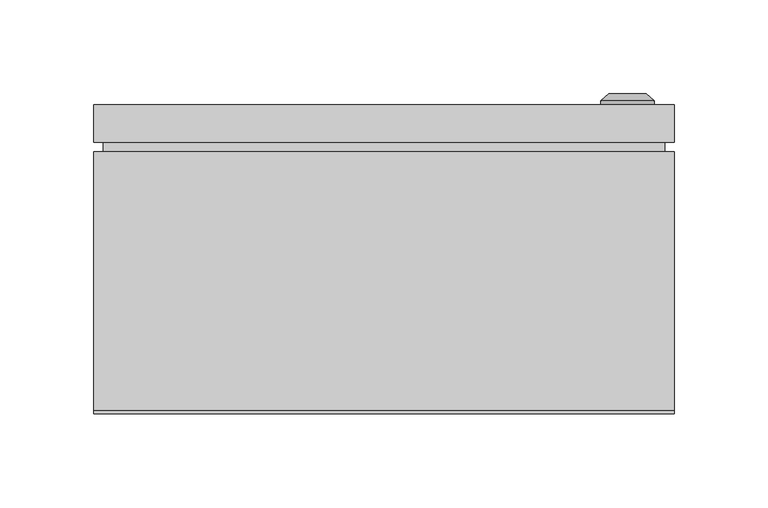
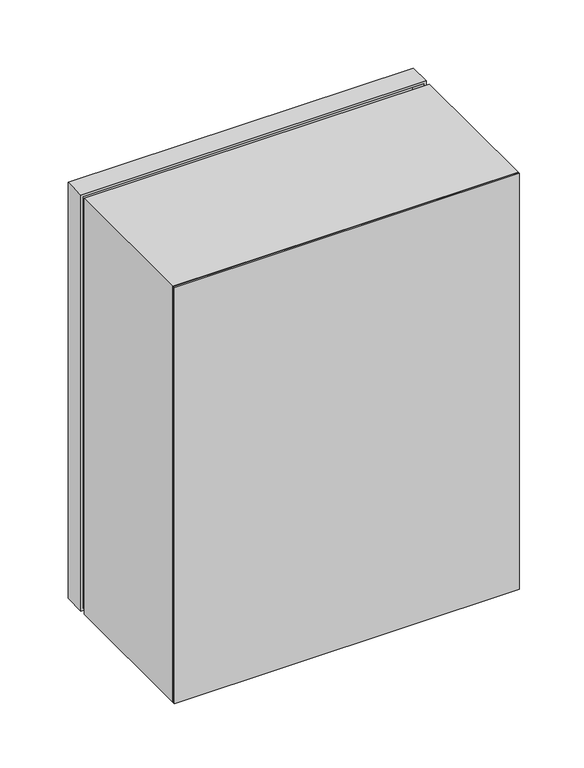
"""IFC4 building model written with IfcOpenShell, lengths in millimetres: proxy geometry, ЩУ-1ф_1-0-12_IP66 : ЩУ-1ф/1-0-12_IP66."""

import ifcopenshell
import ifcopenshell.guid

model = None  # the IFC model being written
_history = None  # IfcOwnerHistory: only IFC2X3 demands one
_inside = {}  # id of a spatial element -> (the spatial element, [elements in it])
_under = {}  # id of a project, library or spatial element -> (it, [spatial elements below it])
_declared = {}  # id of a project -> (the project, [libraries it declares])
_typed = {}  # id of a type object -> (the type object, [elements of that type])
_made_of = {}  # id of a material, layer set ... -> (it, [elements and type objects made of it])


def new_model(schema):
    """Start an empty IFC model of exactly this schema.

    Asked for "IFC4X3", IfcOpenShell would pick the latest addendum, in which some entities
    have other attributes; the version numbers below select the first issue.
    IFC2X3 requires an IfcOwnerHistory on every rooted entity: one is made here for all.
    """
    global model, _history
    if schema == "IFC4X3":
        model = ifcopenshell.file(schema_version=(4, 3, 0, 0))
    else:
        model = ifcopenshell.file(schema=schema)
    _inside.clear()
    _under.clear()
    _declared.clear()
    _typed.clear()
    _made_of.clear()
    _history = None
    if model.schema == "IFC2X3":
        org = make("IfcOrganization", Name="unknown")
        user = make(
            "IfcPersonAndOrganization",
            ThePerson=make("IfcPerson", FamilyName="unknown"),
            TheOrganization=org,
        )
        app = make(
            "IfcApplication",
            ApplicationDeveloper=org,
            Version="unknown",
            ApplicationFullName="unknown",
            ApplicationIdentifier="unknown",
        )
        _history = make(
            "IfcOwnerHistory",
            OwningUser=user,
            OwningApplication=app,
            ChangeAction="ADDED",
            CreationDate=0,
        )
    return model


def make(cls, **values):
    """One entity of the class cls with the attributes given. An attribute that is None is left unset."""
    return model.create_entity(
        cls, **{name: value for name, value in values.items() if value is not None}
    )


def rooted(cls, **values):
    """An entity with a GlobalId (a new one), such as an element, a storey or a relation."""
    return make(cls, GlobalId=ifcopenshell.guid.new(), OwnerHistory=_history, **values)


def si_unit(unit_type, name, prefix=None):
    """IfcSIUnit, for example si_unit("LENGTHUNIT", "METRE", prefix="MILLI")."""
    return make("IfcSIUnit", UnitType=unit_type, Prefix=prefix, Name=name)


def assignment(units):
    """IfcUnitAssignment: the units of a project."""
    return None if units is None else make("IfcUnitAssignment", Units=units)


def point(xyz):
    """IfcCartesianPoint."""
    return None if xyz is None else make("IfcCartesianPoint", Coordinates=xyz)


def direction(xyz):
    """IfcDirection."""
    return None if xyz is None else make("IfcDirection", DirectionRatios=xyz)


def frame(location, z_axis=None, x_axis=None):
    """IfcAxis2Placement3D, a coordinate frame: its origin and axes. An axis left out is left unset."""
    return make(
        "IfcAxis2Placement3D",
        Location=point(location),
        Axis=direction(z_axis),
        RefDirection=direction(x_axis),
    )


def frame_2d(location, x_axis=None):
    """IfcAxis2Placement2D, a coordinate frame in the plane: its origin and x axis."""
    return make(
        "IfcAxis2Placement2D", Location=point(location), RefDirection=direction(x_axis)
    )


def origin():
    """The frame at (0, 0, 0) with its axes left unset."""
    return frame((0.0, 0.0, 0.0))


def origin_with_axes():
    """The frame at (0, 0, 0) with the z axis (0, 0, 1) and the x axis (1, 0, 0) written out."""
    return frame((0.0, 0.0, 0.0), z_axis=(0.0, 0.0, 1.0), x_axis=(1.0, 0.0, 0.0))


def place(relative_to, where):
    """IfcLocalPlacement: puts the frame where relative to a parent placement (None: the world)."""
    return make(
        "IfcLocalPlacement", PlacementRelTo=relative_to, RelativePlacement=where
    )


def context(
    kind, dimensions, precision=None, world=None, true_north=None, identifier=None
):
    """IfcGeometricRepresentationContext, for example the 3D "Model" context."""
    return make(
        "IfcGeometricRepresentationContext",
        ContextIdentifier=identifier,
        ContextType=kind,
        CoordinateSpaceDimension=dimensions,
        Precision=precision,
        WorldCoordinateSystem=world,
        TrueNorth=true_north,
    )


def project(units=None, contexts=None):
    """IfcProject with its units and contexts."""
    return rooted(
        "IfcProject",
        Name="project",
        RepresentationContexts=contexts,
        UnitsInContext=assignment(units),
    )


def spatial(cls, under=None, at=None, **own):
    """A site, building, storey or space (cls), placed at a placement, below another one or the project."""
    s = rooted(cls, ObjectPlacement=at, **own)
    if under is not None:
        _under.setdefault(under.id(), (under, []))[1].append(s)
    return s


def polyline(points):
    """IfcPolyline through the points."""
    return make("IfcPolyline", Points=[point(p) for p in points])


def circle_curve(where, radius):
    """IfcCircle in the frame where."""
    return make("IfcCircle", Position=where, Radius=radius)


def trimmed(basis, trim1, trim2, sense, master):
    """IfcTrimmedCurve: the piece of a basis curve between two trims."""
    return make(
        "IfcTrimmedCurve",
        BasisCurve=basis,
        Trim1=trim1,
        Trim2=trim2,
        SenseAgreement=sense,
        MasterRepresentation=master,
    )


def segment(curve, same_sense, transition):
    """IfcCompositeCurveSegment."""
    return make(
        "IfcCompositeCurveSegment",
        Transition=transition,
        SameSense=same_sense,
        ParentCurve=curve,
    )


def composite_curve(segments, self_intersect=None):
    """IfcCompositeCurve: segments joined end to end."""
    return make("IfcCompositeCurve", Segments=segments, SelfIntersect=self_intersect)


def outline(outer, holes=None, kind="AREA"):
    """IfcArbitraryClosedProfileDef: a profile drawn as a closed curve; with holes, ...WithVoids."""
    if holes is None:
        return make("IfcArbitraryClosedProfileDef", ProfileType=kind, OuterCurve=outer)
    return make(
        "IfcArbitraryProfileDefWithVoids",
        ProfileType=kind,
        OuterCurve=outer,
        InnerCurves=holes,
    )


def extrude(swept, where, along, depth):
    """IfcExtrudedAreaSolid: the profile swept, set in the frame where, extruded along a direction by depth."""
    return make(
        "IfcExtrudedAreaSolid",
        SweptArea=swept,
        Position=where,
        ExtrudedDirection=direction(along),
        Depth=depth,
    )


def shape(context_of_items, identifier, shape_type, items):
    """IfcShapeRepresentation: the items that make up one representation, for example the "Body"."""
    return make(
        "IfcShapeRepresentation",
        ContextOfItems=context_of_items,
        RepresentationIdentifier=identifier,
        RepresentationType=shape_type,
        Items=items,
    )


def source(mapping_origin, context_of_items, identifier, shape_type, items):
    """IfcRepresentationMap: a shape defined once, which mapped items show again and again."""
    return make(
        "IfcRepresentationMap",
        MappingOrigin=mapping_origin,
        MappedRepresentation=shape(context_of_items, identifier, shape_type, items),
    )


def transform(
    local_origin,
    x_axis=None,
    y_axis=None,
    z_axis=None,
    scale=None,
    scale2=None,
    scale3=None,
    uniform=True,
):
    """IfcCartesianTransformationOperator3D, or its non-uniform kind. x_axis, y_axis, z_axis: its Axis1, 2, 3."""
    if uniform:
        return make(
            "IfcCartesianTransformationOperator3D",
            Axis1=direction(x_axis),
            Axis2=direction(y_axis),
            LocalOrigin=point(local_origin),
            Scale=scale,
            Axis3=direction(z_axis),
        )
    return make(
        "IfcCartesianTransformationOperator3DnonUniform",
        Axis1=direction(x_axis),
        Axis2=direction(y_axis),
        LocalOrigin=point(local_origin),
        Scale=scale,
        Axis3=direction(z_axis),
        Scale2=scale2,
        Scale3=scale3,
    )


def mapped(mapping_source, mapping_target):
    """IfcMappedItem: shows the shape of a source again, moved by a transform."""
    return make(
        "IfcMappedItem", MappingSource=mapping_source, MappingTarget=mapping_target
    )


def made_of(thing, what):
    """Note that an element or type object is made of a material, layer set ...; save() writes the relation."""
    if what is not None:
        _made_of.setdefault(what.id(), (what, []))[1].append(thing)
    return thing


def element(
    cls,
    number,
    at=None,
    inside=None,
    cuts=None,
    type_object=None,
    material=None,
    context=None,
    identifier="Body",
    shape_type=None,
    held_by="IfcProductDefinitionShape",
    body=None,
    shapes=None,
    **own,
):
    """One element of the class cls, such as IfcWall. Its Tag is "e" and its number.

    at: its placement. inside: the storey or other place that contains it. cuts: it is an
    opening in that element (IfcRelVoidsElement). A single representation is given by context,
    identifier, shape_type and body (its items); several are given by shapes. held_by: the class
    of the entity that holds the representations. save() writes the other relations.
    """
    e = rooted(cls, Tag="e%d" % number, ObjectPlacement=at, **own)
    if body is not None:
        shapes = [shape(context, identifier, shape_type, body)]
    if shapes is not None:
        e.Representation = make(held_by, Representations=shapes)
    if inside is not None:
        _inside.setdefault(inside.id(), (inside, []))[1].append(e)
    if cuts is not None:
        rooted(
            "IfcRelVoidsElement", RelatingBuildingElement=cuts, RelatedOpeningElement=e
        )
    if type_object is not None:
        _typed.setdefault(type_object.id(), (type_object, []))[1].append(e)
    return made_of(e, material)


def aggregate(whole, parts):
    """IfcRelAggregates: a whole, such as a stair, and the parts it consists of."""
    return rooted("IfcRelAggregates", RelatingObject=whole, RelatedObjects=parts)


def save(model, path):
    """Write the relations noted so far, then the file.

    IfcRelAggregates (storeys below a building ...), IfcRelContainedInSpatialStructure (elements
    in a storey), IfcRelDefinesByType, IfcRelAssociatesMaterial and IfcRelDeclares: one each for
    every whole, place, type object, material and project.
    """
    for whole, parts in _under.values():
        aggregate(whole, parts)
    for where, things in _inside.values():
        rooted(
            "IfcRelContainedInSpatialStructure",
            RelatedElements=things,
            RelatingStructure=where,
        )
    for kind, things in _typed.values():
        rooted("IfcRelDefinesByType", RelatedObjects=things, RelatingType=kind)
    for what, things in _made_of.values():
        rooted("IfcRelAssociatesMaterial", RelatedObjects=things, RelatingMaterial=what)
    for by, libraries in _declared.values():
        rooted("IfcRelDeclares", RelatingContext=by, RelatedDefinitions=libraries)
    model.write(path)


def plane_surface(at):
    """IfcPlane: the flat surface through the origin of the frame at, square to its z axis."""
    return make("IfcPlane", Position=at)


def cylinder_surface(at, radius):
    """IfcCylindricalSurface: all points at the distance radius from the z axis of the frame at."""
    return make("IfcCylindricalSurface", Position=at, Radius=radius)


def revolved_surface(curve, axis_point, axis_direction):
    """IfcSurfaceOfRevolution: the curve turned about the line through axis_point along axis_direction."""
    return make(
        "IfcSurfaceOfRevolution",
        SweptCurve=make("IfcArbitraryOpenProfileDef", ProfileType="CURVE", Curve=curve),
        AxisPosition=make("IfcAxis1Placement", Location=point(axis_point), Axis=direction(axis_direction)),
    )


def advanced_brep(points, edges, surfaces, faces):
    """IfcAdvancedBrep: a solid bounded by faces that lie on surfaces and meet in shared edges.

    An edge is (start, end): straight between two places in points (the first is 0);
    or (start, end, curve); or (start, end, curve, False) where it runs against its curve.
    A face is (place in surfaces, loops), or (place, loops, False) where it looks against
    its surface's normal. A loop lists edges by number (the first is 1), with a minus sign
    where the edge is run from its end to its start. The first loop is the outer one.
    """
    corners = [point(p) for p in points]
    vertices = [make("IfcVertexPoint", VertexGeometry=c) for c in corners]
    made = []
    for start, end, *more in edges:
        made.append(
            make(
                "IfcEdgeCurve",
                EdgeStart=vertices[start],
                EdgeEnd=vertices[end],
                EdgeGeometry=more[0] if more else make("IfcPolyline", Points=[corners[start], corners[end]]),
                SameSense=more[1] if len(more) > 1 else True,
            )
        )
    hull = []
    for where, loops, *sense in faces:
        bounds = []
        for j, loop in enumerate(loops):
            ring = [make("IfcOrientedEdge", EdgeElement=made[abs(k) - 1], Orientation=k > 0) for k in loop]
            bounds.append(
                make(
                    "IfcFaceOuterBound" if j == 0 else "IfcFaceBound",
                    Bound=make("IfcEdgeLoop", EdgeList=ring),
                    Orientation=True,
                )
            )
        hull.append(make("IfcAdvancedFace", Bounds=bounds, FaceSurface=surfaces[where], SameSense=sense[0] if sense else True))
    return make("IfcAdvancedBrep", Outer=make("IfcClosedShell", CfsFaces=hull))


def electrical_equipment_bb3ff358(model_context):
    return source(origin(), model_context, "Body", "SolidModel", [
        extrude(outline(composite_curve([segment(trimmed(circle_curve(frame_2d((222.5, 47.5)), 5.0), [point((217.5, 47.5))], [point((222.5, 52.5))], False, "CARTESIAN"), True, "CONTINUOUS"), segment(polyline([(222.5, 52.5), (282.5, 52.5)]), True, "CONTINUOUS"), segment(trimmed(circle_curve(frame_2d((282.5, 47.5)), 5.0), [point((282.5, 52.5))], [point((287.5, 47.5))], False, "CARTESIAN"), True, "CONTINUOUS"), segment(polyline([(287.5, 47.5), (287.5, -52.5)]), True, "CONTINUOUS"), segment(trimmed(circle_curve(frame_2d((282.5, -52.5)), 5.0), [point((287.5, -52.5))], [point((282.5, -57.5))], False, "CARTESIAN"), True, "CONTINUOUS"), segment(polyline([(282.5, -57.5), (222.5, -57.5)]), True, "CONTINUOUS"), segment(trimmed(circle_curve(frame_2d((222.5, -52.5)), 5.0), [point((222.5, -57.5))], [point((217.5, -52.5))], False, "CARTESIAN"), True, "CONTINUOUS"), segment(polyline([(217.5, -52.5), (217.5, 47.5)]), True, "CONTINUOUS")], self_intersect=False)), frame((0.0, 163.0, 0.0), z_axis=(0.0, 1.0, 0.0), x_axis=(0.0, 0.0, 1.0)), (0.0, 0.0, 1.0), 2.0),
        advanced_brep(
        [(-155.0, 145.0, 395.0), (-155.0, 145.0, 0.0), (155.0, 145.0, 0.0), (155.0, 145.0, 395.0), (-153.0033905, 145.0, 2.0), (-153.0033905, 145.0, 393.0), (152.9966095, 145.0, 393.0), (152.9966095, 145.0, 2.0), (-155.0, 165.0, 395.0), (155.0, 165.0, 395.0), (155.0, 165.0, 0.0), (-155.0, 165.0, 0.0), (-52.5, 165.0, 287.5), (-57.5, 165.0, 282.5), (-57.5, 165.0, 222.5), (-52.5, 165.0, 217.5), (47.5, 165.0, 217.5), (52.5, 165.0, 222.5), (52.5, 165.0, 282.5), (47.5, 165.0, 287.5), (-153.0033905, 163.0, 393.0), (-153.0033905, 163.0, 2.0), (152.9966095, 163.0, 2.0), (152.9966095, 163.0, 393.0), (-52.5, 163.0, 287.5), (47.5, 163.0, 287.5), (52.5, 163.0, 282.5), (52.5, 163.0, 222.5), (47.5, 163.0, 217.5), (-52.5, 163.0, 217.5), (-57.5, 163.0, 222.5), (-57.5, 163.0, 282.5)],
        [
            (0, 1),
            (1, 2),
            (2, 3),
            (3, 0),
            (4, 5),
            (5, 6),
            (6, 7),
            (7, 4),
            (8, 9),
            (9, 10),
            (10, 11),
            (11, 8),
            (12, 13, circle_curve(frame((-52.5, 165.0, 282.5), z_axis=(0.0, -1.0, 0.0), x_axis=(1.0, 0.0, 0.0)), 5.0)),
            (13, 14),
            (14, 15, circle_curve(frame((-52.5, 165.0, 222.5), z_axis=(0.0, -1.0, 0.0), x_axis=(1.0, 0.0, 0.0)), 5.0)),
            (15, 16),
            (16, 17, circle_curve(frame((47.5, 165.0, 222.5), z_axis=(0.0, -1.0, 0.0), x_axis=(1.0, 0.0, 0.0)), 5.0)),
            (17, 18),
            (18, 19, circle_curve(frame((47.5, 165.0, 282.5), z_axis=(0.0, -1.0, 0.0), x_axis=(1.0, 0.0, 0.0)), 5.0)),
            (19, 12),
            (0, 8),
            (11, 1),
            (10, 2),
            (9, 3),
            (20, 21),
            (21, 22),
            (22, 23),
            (23, 20),
            (24, 25),
            (25, 26, circle_curve(frame((47.5, 163.0, 282.5), z_axis=(0.0, 1.0, 0.0), x_axis=(1.0, 0.0, 0.0)), 5.0)),
            (26, 27),
            (27, 28, circle_curve(frame((47.5, 163.0, 222.5), z_axis=(0.0, 1.0, 0.0), x_axis=(1.0, 0.0, 0.0)), 5.0)),
            (28, 29),
            (29, 30, circle_curve(frame((-52.5, 163.0, 222.5), z_axis=(0.0, 1.0, 0.0), x_axis=(1.0, 0.0, 0.0)), 5.0)),
            (30, 31),
            (31, 24, circle_curve(frame((-52.5, 163.0, 282.5), z_axis=(0.0, 1.0, 0.0), x_axis=(1.0, 0.0, 0.0)), 5.0)),
            (20, 5),
            (4, 21),
            (7, 22),
            (6, 23),
            (19, 25),
            (24, 12),
            (17, 27),
            (26, 18),
            (15, 29),
            (28, 16),
            (13, 31),
            (30, 14),
        ],
        [
            plane_surface(frame((-155.0, 145.0, 395.0), z_axis=(0.0, -1.0, 0.0), x_axis=(0.0, 0.0, -1.0))),
            plane_surface(frame((-155.0, 165.0, 395.0), z_axis=(0.0, 1.0, 0.0), x_axis=(0.0, 0.0, 1.0))),
            plane_surface(frame((-155.0, 145.0, 395.0), z_axis=(-1.0, 0.0, 0.0), x_axis=(0.0, 1.0, 0.0))),
            plane_surface(frame((-155.0, 145.0, 0.0), z_axis=(0.0, 0.0, -1.0), x_axis=(0.0, 1.0, 0.0))),
            plane_surface(frame((155.0, 145.0, 0.0), z_axis=(1.0, 0.0, 0.0), x_axis=(0.0, 1.0, 0.0))),
            plane_surface(frame((155.0, 145.0, 395.0), z_axis=(0.0, 0.0, 1.0), x_axis=(0.0, 1.0, 0.0))),
            plane_surface(frame((-153.0033905, 163.0, 393.0), z_axis=(0.0, -1.0, 0.0), x_axis=(0.0, 0.0, 1.0))),
            plane_surface(frame((-153.0033905, 145.0, 393.0), z_axis=(1.0, 0.0, 0.0), x_axis=(0.0, 1.0, 0.0))),
            plane_surface(frame((-153.0033905, 145.0, 2.0), z_axis=(0.0, 0.0, 1.0), x_axis=(0.0, 1.0, 0.0))),
            plane_surface(frame((152.9966095, 145.0, 2.0), z_axis=(-1.0, 0.0, 0.0), x_axis=(0.0, 1.0, 0.0))),
            plane_surface(frame((152.9966095, 145.0, 393.0), z_axis=(0.0, 0.0, -1.0), x_axis=(0.0, 1.0, 0.0))),
            plane_surface(frame((-52.5, 145.0, 287.5), z_axis=(0.0, 0.0, -1.0), x_axis=(0.0, 1.0, 0.0))),
            plane_surface(frame((52.5, 145.0, 282.5), z_axis=(-1.0, 0.0, 0.0), x_axis=(0.0, 1.0, 0.0))),
            plane_surface(frame((47.5, 145.0, 217.5), z_axis=(0.0, 0.0, 1.0), x_axis=(0.0, 1.0, 0.0))),
            plane_surface(frame((-57.5, 145.0, 222.5), z_axis=(1.0, 0.0, 0.0), x_axis=(0.0, 1.0, 0.0))),
            revolved_surface(polyline([(52.5, 165.0, 282.5), (52.5, 163.0, 282.5)]), (47.5, 0.0, 282.5), (0.0, 1.0, 0.0)),
            revolved_surface(polyline([(52.5, 165.0, 222.5), (52.5, 163.0, 222.5)]), (47.5, 0.0, 222.5), (0.0, 1.0, 0.0)),
            revolved_surface(polyline([(-47.5, 165.0, 222.5), (-47.5, 163.0, 222.5)]), (-52.5, 0.0, 222.5), (0.0, 1.0, 0.0)),
            revolved_surface(polyline([(-47.5, 165.0, 282.5), (-47.5, 163.0, 282.5)]), (-52.5, 0.0, 282.5), (0.0, 1.0, 0.0)),
        ],
        [
            (0, [[1, 2, 3, 4], [5, 6, 7, 8]]),
            (1, [[9, 10, 11, 12], [13, 14, 15, 16, 17, 18, 19, 20]]),
            (2, [[-1, 21, -12, 22]]),
            (3, [[-2, -22, -11, 23]]),
            (4, [[-3, -23, -10, 24]]),
            (5, [[-4, -24, -9, -21]]),
            (6, [[25, 26, 27, 28], [29, 30, 31, 32, 33, 34, 35, 36]]),
            (7, [[-25, 37, -5, 38]]),
            (8, [[-26, -38, -8, 39]]),
            (9, [[-27, -39, -7, 40]]),
            (10, [[-28, -40, -6, -37]]),
            (11, [[-20, 41, -29, 42]]),
            (12, [[-18, 43, -31, 44]]),
            (13, [[-16, 45, -33, 46]]),
            (14, [[-14, 47, -35, 48]]),
            (15, [[-19, -44, -30, -41]]),
            (16, [[-17, -46, -32, -43]]),
            (17, [[-15, -48, -34, -45]]),
            (18, [[-13, -42, -36, -47]]),
        ],
    ),
        extrude(outline(polyline([(395.0, -155.0033905), (0.0, -155.0033905), (0.0, 154.9966095), (395.0, 154.9966095), (395.0, -155.0033905)]), holes=[polyline([(370.0, -125.0033905), (370.0, 129.9966095), (25.0, 129.9966095), (25.0, -125.0033905), (370.0, -125.0033905)])]), frame((0.0, 2.0, 0.0), z_axis=(0.0, 1.0, 0.0), x_axis=(0.0, 0.0, 1.0)), (0.0, 0.0, 1.0), 138.0),
        extrude(outline(polyline([(155.0, 0.0), (-155.0, 0.0), (-155.0, 2.0), (155.0, 2.0), (155.0, 0.0)])), origin_with_axes(), (0.0, 0.0, 1.0), 395.0),
        extrude(outline(polyline([(150.0, 140.0), (-150.0, 140.0), (-150.0, 145.0), (150.0, 145.0), (150.0, 140.0)])), frame((0.0, 0.0, 5.0), z_axis=(0.0, 0.0, 1.0), x_axis=(1.0, 0.0, 0.0)), (0.0, 0.0, 1.0), 385.0),
        advanced_brep(
        [(115.669873, 165.0, 197.5), (144.330127, 165.0, 197.5), (130.0, 165.0, 197.5), (115.669873, 167.366592, 197.5), (144.330127, 167.366592, 197.5), (120.0, 171.0, 197.5), (140.0, 171.0, 197.5), (128.1080471, 171.0, 197.5), (131.8919529, 171.0, 197.5), (128.1080471, 169.9822294, 197.5), (131.8919529, 169.9822294, 197.5), (130.0, 169.9822294, 197.5)],
        [
            (0, 1, circle_curve(frame((130.0, 165.0, 197.5), z_axis=(0.0, -1.0, 0.0), x_axis=(1.0, 0.0, 0.0)), 14.330127)),
            (1, 2),
            (2, 0),
            (1, 0, circle_curve(frame((130.0, 165.0, 197.5), z_axis=(0.0, -1.0, 0.0), x_axis=(1.0, 0.0, 0.0)), 14.330127)),
            (3, 4, circle_curve(frame((130.0, 167.366592, 197.5), z_axis=(0.0, -1.0, 0.0), x_axis=(1.0, 0.0, 0.0)), 14.330127)),
            (4, 1),
            (0, 3),
            (4, 3, circle_curve(frame((130.0, 167.366592, 197.5), z_axis=(0.0, -1.0, 0.0), x_axis=(1.0, 0.0, 0.0)), 14.330127)),
            (5, 6, circle_curve(frame((130.0, 171.0, 197.5), z_axis=(0.0, -1.0, 0.0), x_axis=(1.0, 0.0, 0.0)), 10.0)),
            (6, 4),
            (3, 5),
            (6, 5, circle_curve(frame((130.0, 171.0, 197.5), z_axis=(0.0, -1.0, 0.0), x_axis=(1.0, 0.0, 0.0)), 10.0)),
            (7, 8, circle_curve(frame((130.0, 171.0, 197.5), z_axis=(0.0, -1.0, 0.0), x_axis=(1.0, 0.0, 0.0)), 1.8919529)),
            (8, 6),
            (5, 7),
            (8, 7, circle_curve(frame((130.0, 171.0, 197.5), z_axis=(0.0, -1.0, 0.0), x_axis=(1.0, 0.0, 0.0)), 1.8919529)),
            (9, 10, circle_curve(frame((130.0, 169.9822294, 197.5), z_axis=(0.0, -1.0, 0.0), x_axis=(1.0, 0.0, 0.0)), 1.8919529)),
            (10, 8),
            (7, 9),
            (10, 9, circle_curve(frame((130.0, 169.9822294, 197.5), z_axis=(0.0, -1.0, 0.0), x_axis=(1.0, 0.0, 0.0)), 1.8919529)),
            (11, 10),
            (9, 11),
        ],
        [
            plane_surface(frame((130.0, 165.0, 197.5), z_axis=(0.0, -1.0, 0.0), x_axis=(1.0, 0.0, 0.0))),
            cylinder_surface(frame((130.0, 178.1348851, 197.5), z_axis=(0.0, 1.0, 0.0), x_axis=(1.0, 0.0, 0.0)), 14.330127),
            revolved_surface(polyline([(144.330127, 167.366592, 197.5), (140.0, 171.0, 197.5)]), (130.0, 178.1348851, 197.5), (0.0, 1.0, 0.0)),
            plane_surface(frame((130.0, 171.0, 197.5), z_axis=(0.0, 1.0, 0.0), x_axis=(1.0, 0.0, 0.0))),
            revolved_surface(polyline([(131.8919529, 171.0, 197.5), (131.8919529, 169.9822294, 197.5)]), (130.0, 178.1348851, 197.5), (0.0, 1.0, 0.0)),
            plane_surface(frame((130.0, 169.9822294, 197.5), z_axis=(0.0, 1.0, 0.0), x_axis=(1.0, 0.0, 0.0))),
        ],
        [
            (0, [[1, 2, 3]]),
            (0, [[4, -3, -2]]),
            (1, [[5, 6, -1, 7]]),
            (1, [[8, -7, -4, -6]]),
            (2, [[9, 10, -5, 11]]),
            (2, [[12, -11, -8, -10]]),
            (3, [[13, 14, -9, 15]]),
            (3, [[16, -15, -12, -14]]),
            (4, [[17, 18, -13, 19]]),
            (4, [[20, -19, -16, -18]]),
            (5, [[21, -17, 22]]),
            (5, [[-22, -20, -21]]),
        ],
    ),
    ])


if __name__ == "__main__":
    model = new_model("IFC4")
    model_context = context("Model", 3, world=origin())
    ifc_project = project(units=[si_unit("LENGTHUNIT", "METRE", prefix="MILLI")], contexts=[model_context])
    site = spatial("IfcSite", under=ifc_project)
    building = spatial("IfcBuilding", under=site)
    placement = place(None, origin())
    electrical_equipment_shape = electrical_equipment_bb3ff358(model_context)
    element("IfcBuildingElementProxy", 1, Name="ЩУ-1ф_1-0-12_IP66 : ЩУ-1ф/1-0-12_IP66", ObjectType="ЩУ-1ф_1-0-12_IP66 : ЩУ-1ф/1-0-12_IP66", at=placement, inside=building, context=model_context, shape_type="MappedRepresentation", body=[
        mapped(electrical_equipment_shape, transform((0.0, 0.0, 0.0), x_axis=(1.0, 0.0, 0.0), y_axis=(0.0, 1.0, 0.0), z_axis=(0.0, 0.0, 1.0))),
    ])
    save(model, "model.ifc")
